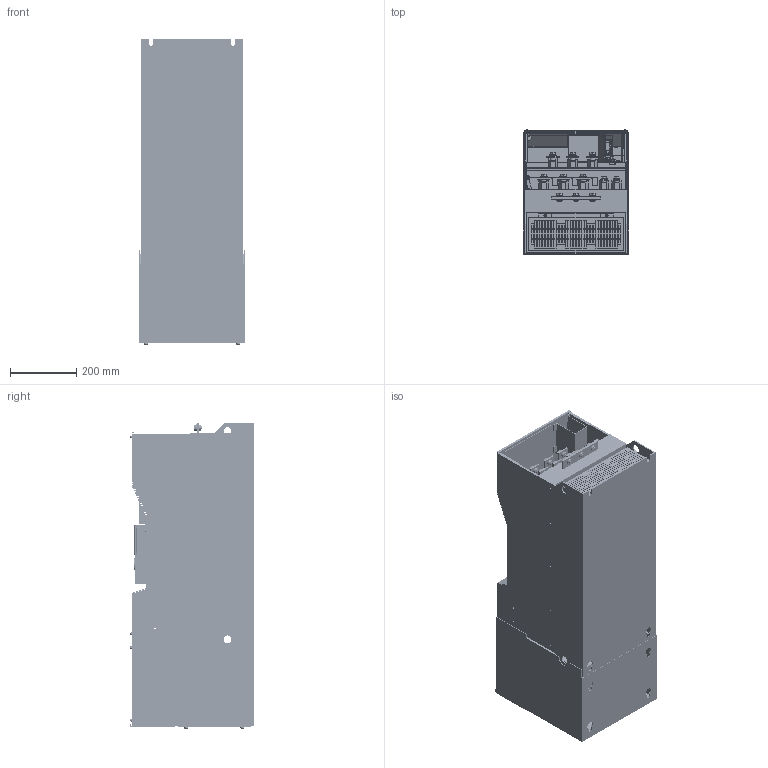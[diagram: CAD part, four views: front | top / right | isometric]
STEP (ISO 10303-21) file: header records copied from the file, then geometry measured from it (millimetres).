
FILE_DESCRIPTION(('STEP AP203'),'1');
FILE_NAME('s6571371.stp','2022-04-13T00:39:57',(' '),(' '),'Spatial InterOp 3D',' ',' ');
FILE_SCHEMA(('CONFIG_CONTROL_DESIGN'));
Length unit declared in the file: metre
Products named in the file (54): VFAS3J_J10_000; VFAS3J_DRIVE_J10; S6571331_000; VFAS3J_DISPLAY; VFAS3J_CTR_TERM; VFAS3J_DISPLAY_COVER; Cable_CLAMP; M10X20; M10X202; M10X203; M10X204; M10X205; M10X206; M10X207; M10X208; M10X209; M8X20; M8X202; M12_W-M; M12X35; M12_W-M2; M12_SW; M12_HN; M12_W-M3; M12X352; M12_W-M4; M12_SW2; M12_HN2; M12_W-M5; M12X353; M12_W-M6; M12_SW3; M12_HN3; M8_NUT_WITH_WASHER; VFAS3J_GROUNDING_SWITCHING_BAR; VFAS3J_CABLE_CHANNEL_J10; VFAS3J_TERMINAL_COVER_J10; VFAS3J_FRONT_COVER_J10; VFAS3J_CHANNEL_COVER_HHP; s6571371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
Assembly tree (53 placements, depth 3):
  s6571371
    VFAS3J_J10_000
      VFAS3J_DRIVE_J10
      S6571331_000
      VFAS3J_DISPLAY
      VFAS3J_CTR_TERM
      VFAS3J_DISPLAY_COVER
      Cable_CLAMP
      M10X20
      M10X202
      M10X203
      M10X204
      M10X205
      M10X206
      M10X207
      M10X208
      M10X209
      M8X20
      M8X202
      M12_W-M
      M12X35
      M12_W-M2
      M12_SW
      M12_HN
      M12_W-M3
      M12X352
      M12_W-M4
      M12_SW2
      M12_HN2
      M12_W-M5
      M12X353
      M12_W-M6
      M12_SW3
      M12_HN3
      M8_NUT_WITH_WASHER
      VFAS3J_GROUNDING_SWITCHING_BAR
      VFAS3J_CABLE_CHANNEL_J10
      VFAS3J_TERMINAL_COVER_J10
      VFAS3J_FRONT_COVER_J10
      VFAS3J_CHANNEL_COVER_HHP
    DCL1_OPTION_S9
      DCL1_OPTION_BOX_S9
      DC-CHOKE_4900
      M8_NUT_WITH_WASHER2
      M6_NUT_WITH_WASHER
      M6_NUT_WITH_WASHER2
      M6_NUT_WITH_WASHER3
      M6_NUT_WITH_WASHER4
      DCL1_OPTION_TB-BOX_S9
      M6_NUT_WITH_WASHER5
      M6_NUT_WITH_WASHER6
      M6_NUT_WITH_WASHER7
      M6_NUT_WITH_WASHER8
      DCL1_OPTION_COVER_S9
Bounding box: 320 x 375 x 926.4 mm (x, y, z)
Volume: 57372325.5 mm3; surface area: 4084185.1 mm2
Topology: 85 solids, 93 shells, 8883 faces, 24264 edges, 16018 vertices
Faces by surface type: plane 7457, cylinder 1096, torus 158, cone 92, sphere 80
Entity records: 283691 total; most frequent: CARTESIAN_POINT 50181, ORIENTED_EDGE 48368, DIRECTION 45088, EDGE_CURVE 24184, LINE 20932, VECTOR 20932, VERTEX_POINT 16018, AXIS2_PLACEMENT_3D 12078
